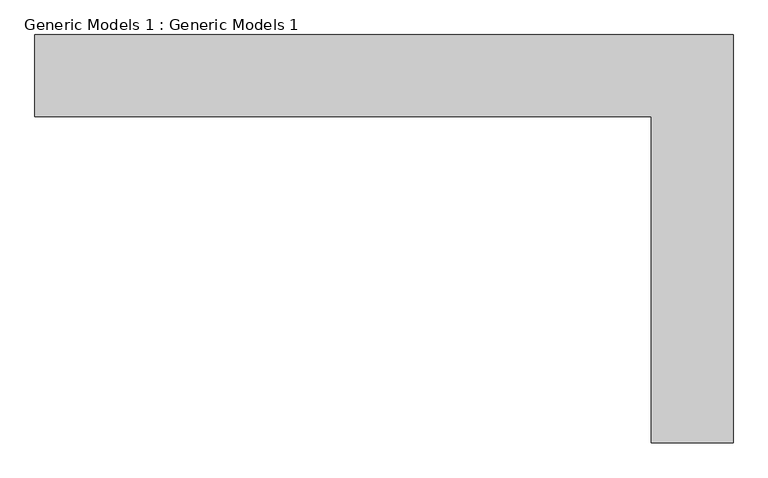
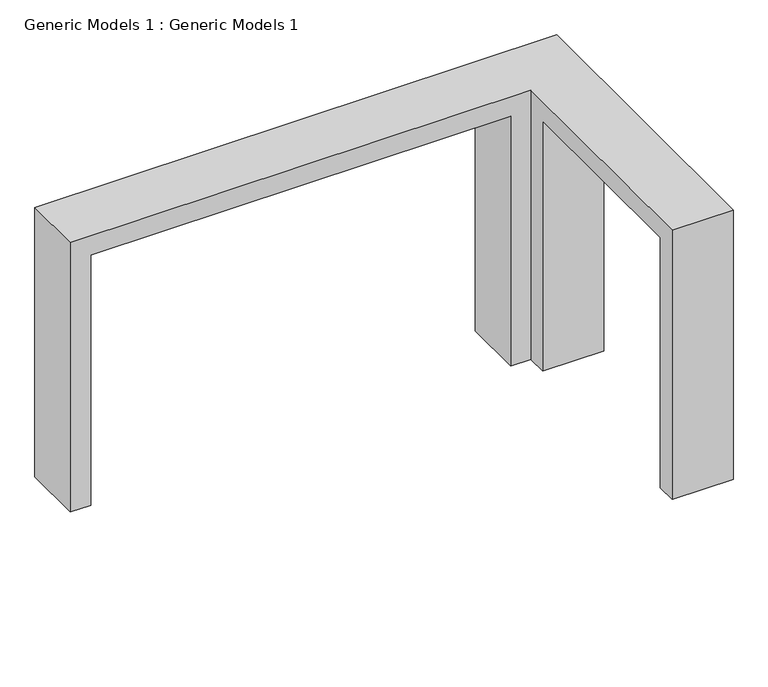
"""IFC4 building model written with IfcOpenShell, lengths in millimetres: proxy geometry, Generic Models 1 : Generic Models 1."""

from ifc_helpers import new_model, si_unit, origin, place, context, project, spatial, faceted_brep, source, transform, mapped, element, save


def generic_models_1_generic_models_1_6ccf1b33(model_context):
    return source(origin(), model_context, "Body", "Brep", [
        faceted_brep([(5350.4525708, 7987.7866664, 2800.0), (5350.4525708, 7987.7866664, 0.0), (5550.4525708, 7987.7866664, 0.0), (5550.4525708, 7987.7866664, 2600.0), (9677.9525098, 7987.7866664, 2600.0), (9677.9525098, 7987.7866664, 0.0), (9877.9525098, 7987.7866664, 0.0), (9877.9525098, 7987.7866664, 2800.0), (5350.4525708, 8587.7866664, 2800.0), (10477.9525098, 8587.7866664, 2800.0), (10477.9525098, 8587.7866664, 0.0), (9677.9525098, 8587.7866664, 0.0), (9677.9525098, 8587.7866664, 2600.0), (5550.4525708, 8587.7866664, 2600.0), (5550.4525708, 8587.7866664, 0.0), (5350.4525708, 8587.7866664, 0.0), (10477.9525098, 7787.7866664, 0.0), (9877.9525098, 7787.7866664, 0.0), (10477.9525098, 5587.7866664, 2800.0), (10477.9525098, 5587.7866664, 0.0), (10477.9525098, 5787.7866664, 0.0), (10477.9525098, 5787.7866664, 2600.0), (10477.9525098, 7787.7866664, 2600.0), (9877.9525098, 5587.7866664, 2800.0), (9877.9525098, 7787.7866664, 2600.0), (9877.9525098, 5787.7866664, 2600.0), (9877.9525098, 5787.7866664, 0.0), (9877.9525098, 5587.7866664, 0.0)], [[[0, 1, 2, 3, 4, 5, 6, 7]], [[8, 9, 10, 11, 12, 13, 14, 15]], [[1, 0, 8, 15]], [[2, 1, 15, 14]], [[3, 2, 14, 13]], [[4, 3, 13, 12]], [[11, 10, 16, 17, 6, 5]], [[16, 10, 9, 18, 19, 20, 21, 22]], [[18, 9, 8, 0, 7, 23]], [[23, 7, 6, 17, 24, 25, 26, 27]], [[24, 17, 16, 22]], [[25, 24, 22, 21]], [[26, 25, 21, 20]], [[27, 26, 20, 19]], [[23, 27, 19, 18]], [[5, 4, 12, 11]]]),
    ])


if __name__ == "__main__":
    model = new_model("IFC4")
    model_context = context("Model", 3, world=origin())
    ifc_project = project(units=[si_unit("LENGTHUNIT", "METRE", prefix="MILLI")], contexts=[model_context])
    site = spatial("IfcSite", under=ifc_project)
    building = spatial("IfcBuilding", under=site)
    placement = place(None, origin())
    generic_models_1_generic_models_1_shape = generic_models_1_generic_models_1_6ccf1b33(model_context)
    element("IfcBuildingElementProxy", 1, Name="Generic Models 1 : Generic Models 1", ObjectType="Generic Models 1 : Generic Models 1", at=placement, inside=building, context=model_context, shape_type="MappedRepresentation", body=[
        mapped(generic_models_1_generic_models_1_shape, transform((0.0, 0.0, 0.0), x_axis=(1.0, 0.0, 0.0), y_axis=(0.0, 1.0, 0.0), z_axis=(0.0, 0.0, 1.0))),
    ])
    save(model, "model.ifc")
